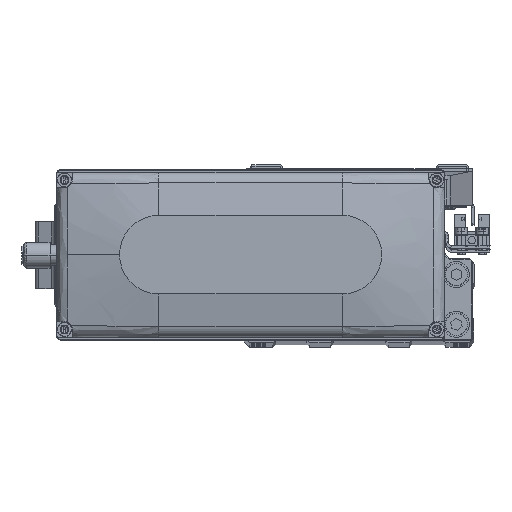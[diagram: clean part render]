
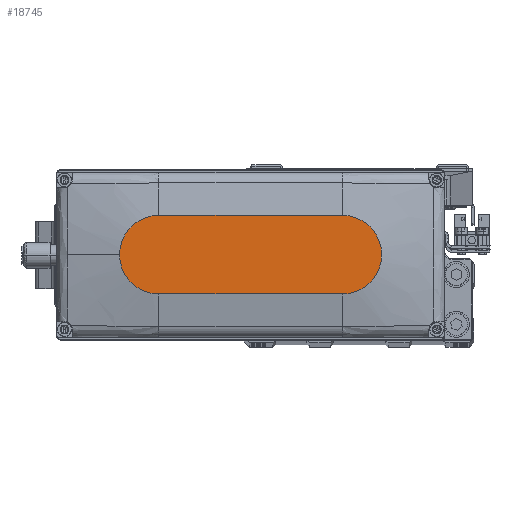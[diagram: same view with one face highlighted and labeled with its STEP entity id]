
A CAD part, top view. The second image highlights one B-rep face of the part: STEP entity #18745.
In plain terms, the highlighted planar face has unit normal (0, 0, 1).
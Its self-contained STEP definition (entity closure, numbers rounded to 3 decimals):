
#271 = AXIS2_PLACEMENT_3D ( 'NONE', #8192, #23764, #39409 ) ;
#551 = CARTESIAN_POINT ( 'NONE',  ( 35., 0., 35. ) ) ;
#1892 = CARTESIAN_POINT ( 'NONE',  ( -35., -15., 35. ) ) ;
#4306 = CARTESIAN_POINT ( 'NONE',  ( -35., 15., 35. ) ) ;
#4743 = EDGE_CURVE ( 'NONE', #31311, #12363, #22341, .T. ) ;
#5069 = CARTESIAN_POINT ( 'NONE',  ( -35., 0., 35. ) ) ;
#7218 = ORIENTED_EDGE ( 'NONE', *, *, #35679, .T. ) ;
#8192 = CARTESIAN_POINT ( 'NONE',  ( 35., 0., 35. ) ) ;
#8594 = ORIENTED_EDGE ( 'NONE', *, *, #17202, .T. ) ;
#9662 = LINE ( 'NONE', #25254, #35331 ) ;
#12363 = VERTEX_POINT ( 'NONE', #25744 ) ;
#12697 = CARTESIAN_POINT ( 'NONE',  ( -35., -15., 35. ) ) ;
#13317 = AXIS2_PLACEMENT_3D ( 'NONE', #551, #16152, #31789 ) ;
#14302 = DIRECTION ( 'NONE',  ( 0., 0., 1. ) ) ;
#16152 = DIRECTION ( 'NONE',  ( 0., 0., 1. ) ) ;
#17202 = EDGE_CURVE ( 'NONE', #12363, #30929, #35408, .T. ) ;
#18132 = FACE_OUTER_BOUND ( 'NONE', #34512, .T. ) ;
#18745 = ADVANCED_FACE ( 'NONE', ( #18132 ), #33778, .T. ) ;
#19342 = AXIS2_PLACEMENT_3D ( 'NONE', #5069, #20622, #36284 ) ;
#20622 = DIRECTION ( 'NONE',  ( 0., 0., 1. ) ) ;
#22341 = CIRCLE ( 'NONE', #271, 15. ) ;
#23244 = ORIENTED_EDGE ( 'NONE', *, *, #27614, .T. ) ;
#23764 = DIRECTION ( 'NONE',  ( 0., 0., 1. ) ) ;
#25254 = CARTESIAN_POINT ( 'NONE',  ( -35., 15., 35. ) ) ;
#25659 = VECTOR ( 'NONE', #28311, 1000. ) ;
#25744 = CARTESIAN_POINT ( 'NONE',  ( 50., 0., 35. ) ) ;
#27614 = EDGE_CURVE ( 'NONE', #36235, #31311, #47746, .T. ) ;
#28311 = DIRECTION ( 'NONE',  ( 1., 0., 0. ) ) ;
#29797 = AXIS2_PLACEMENT_3D ( 'NONE', #49368, #14302, #29941 ) ;
#29941 = DIRECTION ( 'NONE',  ( 1., 0., 0. ) ) ;
#30834 = CARTESIAN_POINT ( 'NONE',  ( 35., -15., 35. ) ) ;
#30929 = VERTEX_POINT ( 'NONE', #41989 ) ;
#31311 = VERTEX_POINT ( 'NONE', #30834 ) ;
#31789 = DIRECTION ( 'NONE',  ( 1., 0., 0. ) ) ;
#33778 = PLANE ( 'NONE',  #29797 ) ;
#34512 = EDGE_LOOP ( 'NONE', ( #35758, #7218, #23244, #49089, #8594 ) ) ;
#35331 = VECTOR ( 'NONE', #40890, 1000. ) ;
#35408 = CIRCLE ( 'NONE', #13317, 15. ) ;
#35679 = EDGE_CURVE ( 'NONE', #50087, #36235, #41481, .T. ) ;
#35758 = ORIENTED_EDGE ( 'NONE', *, *, #44340, .T. ) ;
#36235 = VERTEX_POINT ( 'NONE', #1892 ) ;
#36284 = DIRECTION ( 'NONE',  ( 1., 0., 0. ) ) ;
#39409 = DIRECTION ( 'NONE',  ( 1., 0., 0. ) ) ;
#40890 = DIRECTION ( 'NONE',  ( -1., 0., 0. ) ) ;
#41481 = CIRCLE ( 'NONE', #19342, 15. ) ;
#41989 = CARTESIAN_POINT ( 'NONE',  ( 35., 15., 35. ) ) ;
#44340 = EDGE_CURVE ( 'NONE', #30929, #50087, #9662, .T. ) ;
#47746 = LINE ( 'NONE', #12697, #25659 ) ;
#49089 = ORIENTED_EDGE ( 'NONE', *, *, #4743, .T. ) ;
#49368 = CARTESIAN_POINT ( 'NONE',  ( 0., 0., 35. ) ) ;
#50087 = VERTEX_POINT ( 'NONE', #4306 ) ;
